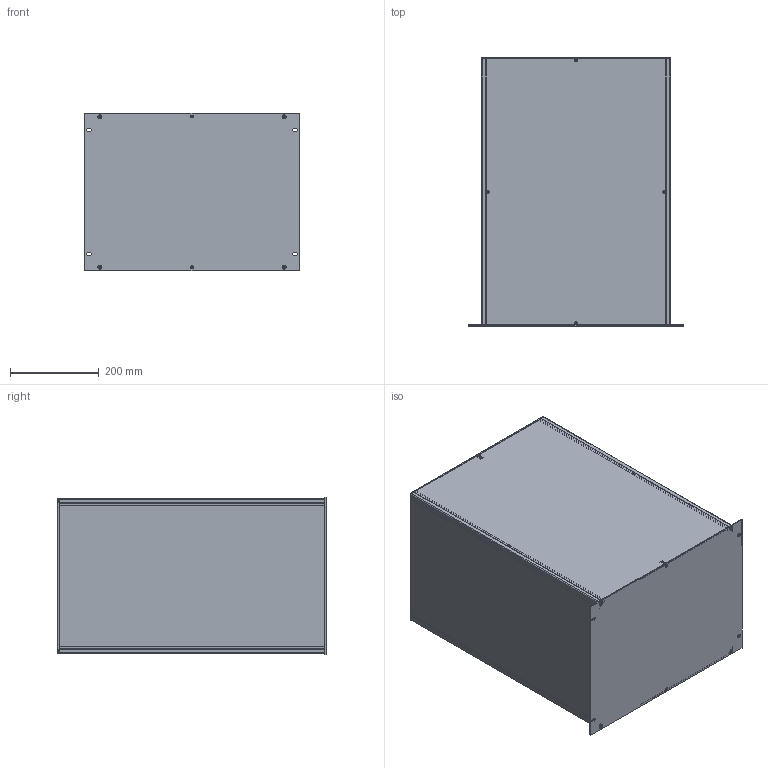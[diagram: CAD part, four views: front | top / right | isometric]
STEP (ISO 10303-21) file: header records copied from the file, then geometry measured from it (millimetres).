
FILE_DESCRIPTION(/* description */ (''),/* implementation_level */ '2;1');
FILE_NAME(/* name */ '//diskstation/Kunden/Gehäuse/Gehäuse/8HE/step/19 Zoll 8HE Rack Gehäuse Tiefe-600.step',/* time_stamp */ '2022-02-17T17:13:44+01:00',/* author */ (''),/* organization */ (''),/* preprocessor_version */ 'ST-DEVELOPER v18.1',/* originating_system */ 'Autodesk Translation Framework v10.10.0.1391',/* authorisation */ '');
FILE_SCHEMA (('AUTOMOTIVE_DESIGN { 1 0 10303 214 3 1 1 }'));
Length unit declared in the file: millimetre
Products named in the file (28): 8HE Gehäuse mit parametern; Gehäuse; Gehäuseprofil 1 unten links; Gehäuseprofil 2 oben rechts; Gehäuseprofil 1 unten rechts; Gehäuseprofil 2 oben links; Rückplatte; Deckel; Seitenteil links; Seitenteil rechts; Bodenplatte; Montageklotz Front/Deckel; Montageklotz Front/Boden; Montageklotz Rück/Deckel; Montageklotz Rück/Boden; Gewindestreifen; Frontplatte; Schrauben M5; Schraube Front; Schraube Front (1); Schraube Front (2); Schraube Front (3); Schraube Rück (1); Schraube Rück; Schraube Rück (2); Schraube Rück (3); Schrauben M3; HI_Senkschraube DIN 965 A v2 M3x5 24677.030.005(High)
Assembly tree (37 placements, depth 3):
  8HE Gehäuse mit parametern
    Gehäuse
      Gehäuseprofil 1 unten links
      Gehäuseprofil 2 oben rechts
      Gehäuseprofil 1 unten rechts
      Gehäuseprofil 2 oben links
      Rückplatte
      Deckel
      Seitenteil links
      Seitenteil rechts
      Bodenplatte
      Montageklotz Front/Deckel
      Montageklotz Front/Boden
      Montageklotz Rück/Deckel
      Montageklotz Rück/Boden
      Gewindestreifen  x2
    Frontplatte
    Schrauben M5
      Schraube Front
      Schraube Front (1)
      Schraube Front (2)
      Schraube Front (3)
      Schraube Rück (1)
      Schraube Rück
      Schraube Rück (2)
      Schraube Rück (3)
    Schrauben M3
      HI_Senkschraube DIN 965 A v2 M3x5 24677.030.005(High)  x10
Bounding box: 483 x 608.2 x 354.8 mm (x, y, z)
Volume: 3128125.7 mm3; surface area: 2677016.4 mm2
Topology: 34 solids, 34 shells, 944 faces, 2346 edges, 1470 vertices
Faces by surface type: cylinder 422, plane 342, cone 164, torus 8, bspline 8
Full cylindrical faces by diameter (mm): 2.529 x180, 3 x10, 3.2 x10, 4.234 x40, 5 x8, 5.2 x4, 5.3 x8, 5.6 x10, 9.5 x8
Entity records: 18600 total; most frequent: CARTESIAN_POINT 3348, DIRECTION 3135, ORIENTED_EDGE 2760, EDGE_CURVE 1380, AXIS2_PLACEMENT_3D 1195, VERTEX_POINT 868, EDGE_LOOP 866, LINE 745
